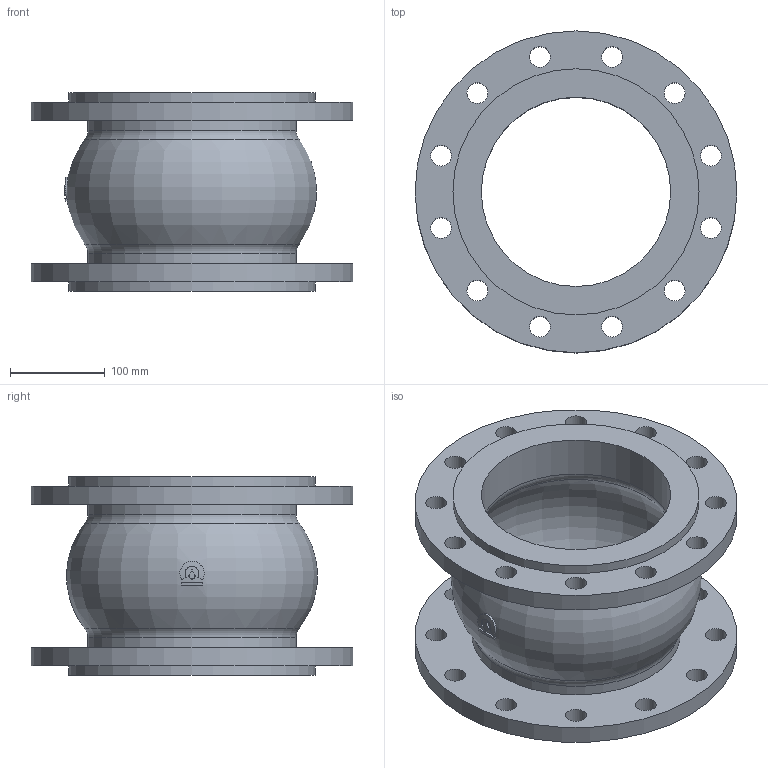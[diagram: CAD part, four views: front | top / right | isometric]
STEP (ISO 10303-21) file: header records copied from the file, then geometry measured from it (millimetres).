
FILE_DESCRIPTION(('STEP AP203'), '1');
FILE_NAME('Êîìïåíñàòîð KMS DN200 PN16_L210', '', ('UNSPECIFIED'), ('UNSPECIFIED'), 'ASCON STEP Converter 1.6', 'ASCON Math Kernel', '');
FILE_SCHEMA(('CONFIG_CONTROL_DESIGN'));
Length unit declared in the file: millimetre
Bounding box: 340 x 340 x 210 mm (x, y, z)
Volume: 3712879.7 mm3; surface area: 569311 mm2
Topology: 1 solids, 1 shells, 61 faces, 148 edges, 96 vertices
Faces by surface type: cylinder 39, plane 13, torus 9
Full cylindrical faces by diameter (mm): 22 x24, 200 x2, 220 x2, 260 x2, 340 x2
Entity records: 3017 total; most frequent: CARTESIAN_POINT 1084, DIRECTION 286, ORIENTED_EDGE 220, EDGE_LOOP 156, AXIS2_PLACEMENT_3D 136, EDGE_CURVE 110, VERTEX_POINT 96, FACE_BOUND 80
